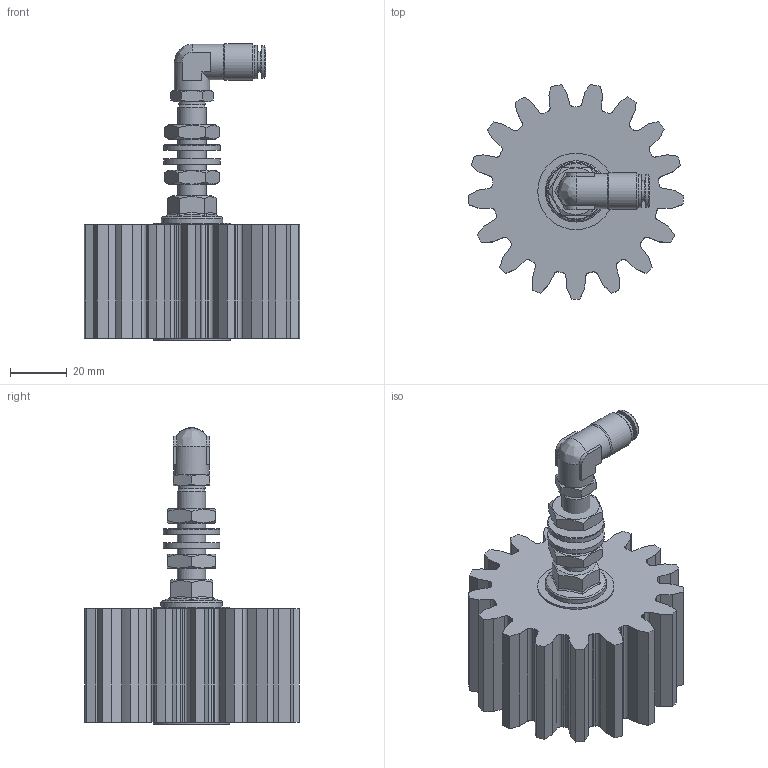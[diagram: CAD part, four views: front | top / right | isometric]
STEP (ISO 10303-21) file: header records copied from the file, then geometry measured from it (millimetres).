
FILE_DESCRIPTION (( 'STEP AP214' ), '1' );
FILE_NAME ('012_13_04_40_17AZ.STEP', '2026-04-01T13:59:09', ( '' ), ( '' ), 'SwSTEP 2.0', 'SolidWorks 2022', '' );
FILE_SCHEMA (( 'AUTOMOTIVE_DESIGN' ));
Length unit declared in the file: millimetre
Products named in the file (13): H214667-HDS_1-8_M6X1Z; R11155-N2; DR6-C_HDX_25.07.16; 012_13_04_40_17AZ; OR 7.2X1.9; 12012_06_01_Scheibe-CRS-VA_27.SLDASM; Mutter_M10; U_Scheibe_10.5; 012_06_Senkschraube; H202225_HDS_022_6_M6_28.09.22; Schmierzahnrad_04_40_17G; Achse_M10_1_Schmierzahnrad
Assembly tree (14 placements, depth 4):
  012_13_04_40_17AZ
    Achse_M10_1_Schmierzahnrad
    012_06_Senkschraube
    12012_06_01_Scheibe-CRS-VA_27.SLDASM
    Mutter_M10  x2
    U_Scheibe_10.5  x2
    H202225_HDS_022_6_M6_28.09.22
      R11155-N2
      DR6-C_HDX_25.07.16
      H214667-HDS_1-8_M6X1Z
        H214667-HDS_1-8_M6X1Z
        OR 7.2X1.9
    Schmierzahnrad_04_40_17G
Bounding box: 75.97 x 75.69 x 104.7 mm (x, y, z)
Volume: 155444.2 mm3; surface area: 35849.6 mm2
Topology: 12 solids, 12 shells, 671 faces, 1800 edges, 1190 vertices
Faces by surface type: plane 431, bspline 95, cylinder 91, cone 50, torus 4
Full cylindrical faces by diameter (mm): 2 x1, 4 x1, 4.6 x1, 5 x1, 5.5 x1, 6 x2, 6.2 x1, 6.3 x1, 7.2 x1, 8.5 x2, 9 x2, 9.5 x1, 9.9 x1, 10 x2, 10.1 x2, 10.3 x1, 10.5 x2, 11.5 x1, 11.7 x1, 12.5 x2, 13 x1, 20 x2, 21.6 x1, 27 x2
Entity records: 28393 total; most frequent: CARTESIAN_POINT 11502, ORIENTED_EDGE 3290, DIRECTION 2741, EDGE_CURVE 1645, LINE 1143, VECTOR 1143, VERTEX_POINT 1122, AXIS2_PLACEMENT_3D 799
